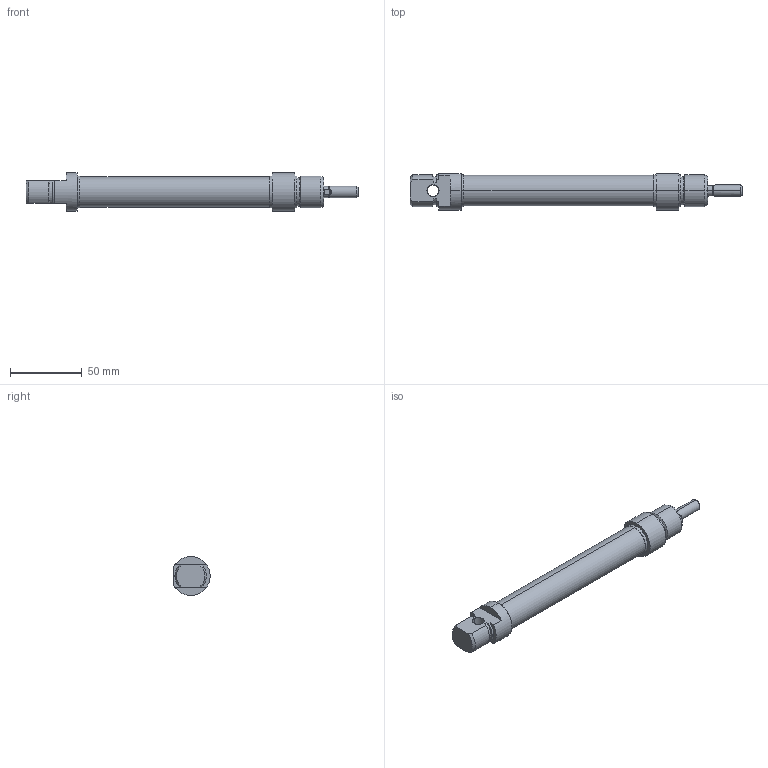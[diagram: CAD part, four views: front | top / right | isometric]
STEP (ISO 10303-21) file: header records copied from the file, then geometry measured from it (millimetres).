
FILE_DESCRIPTION (( 'STEP AP214' ), '1' );
FILE_NAME ('23_00507.STEP', '2017-01-03T15:52:36', ( '' ), ( '' ), 'SwSTEP 2.0', 'SolidWorks 2016', '' );
FILE_SCHEMA (( 'AUTOMOTIVE_DESIGN' ));
Length unit declared in the file: millimetre
Products named in the file (1): 23_00507
Bounding box: 231 x 25.2 x 27 mm (x, y, z)
Volume: 77025.9 mm3; surface area: 19004.9 mm2
Topology: 4 solids, 4 shells, 108 faces, 242 edges, 151 vertices
Faces by surface type: cylinder 43, plane 35, cone 26, torus 4
Entity records: 3187 total; most frequent: CARTESIAN_POINT 658, DIRECTION 556, ORIENTED_EDGE 480, EDGE_CURVE 240, AXIS2_PLACEMENT_3D 225, VERTEX_POINT 151, EDGE_LOOP 121, CIRCLE 116
